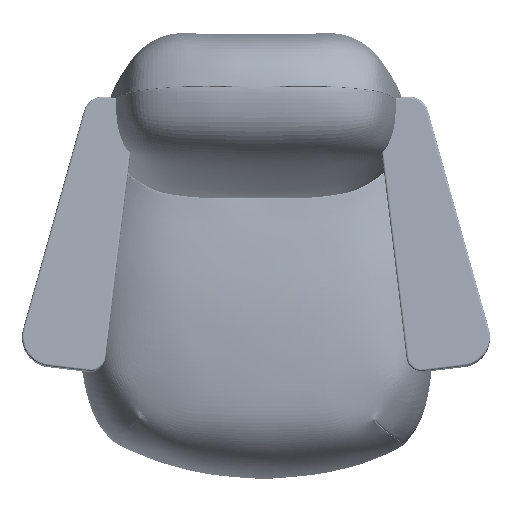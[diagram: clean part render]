
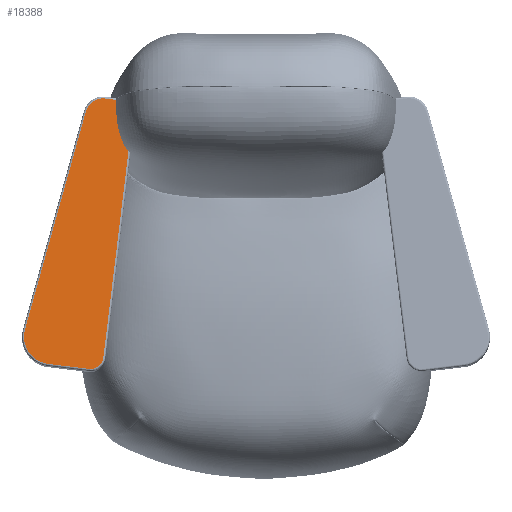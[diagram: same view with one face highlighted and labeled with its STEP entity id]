
A CAD part, top view. The second image highlights one B-rep face of the part: STEP entity #18388.
In plain terms, the highlighted planar face has unit normal (0.004, 0.085, 0.996).
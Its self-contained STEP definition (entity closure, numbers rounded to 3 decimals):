
#76=(
BOUNDED_CURVE()
B_SPLINE_CURVE(1,(#894220,#894221),.UNSPECIFIED.,.F.,.F.)
B_SPLINE_CURVE_WITH_KNOTS((2,2),(0.,83.797),
 .UNSPECIFIED.)
CURVE()
GEOMETRIC_REPRESENTATION_ITEM()
RATIONAL_B_SPLINE_CURVE((1.,1.))
REPRESENTATION_ITEM('')
);
#82=(
BOUNDED_CURVE()
B_SPLINE_CURVE(2,(#894238,#894239,#894240,#894241,#894242),
 .UNSPECIFIED.,.F.,.F.)
B_SPLINE_CURVE_WITH_KNOTS((3,2,3),(0.,48.203,
96.407),.UNSPECIFIED.)
CURVE()
GEOMETRIC_REPRESENTATION_ITEM()
RATIONAL_B_SPLINE_CURVE((1.,0.909,1.,0.909,1.))
REPRESENTATION_ITEM('')
);
#85=(
BOUNDED_CURVE()
B_SPLINE_CURVE(1,(#894249,#894250),.UNSPECIFIED.,.F.,.F.)
B_SPLINE_CURVE_WITH_KNOTS((2,2),(0.,462.239),
 .UNSPECIFIED.)
CURVE()
GEOMETRIC_REPRESENTATION_ITEM()
RATIONAL_B_SPLINE_CURVE((1.,1.))
REPRESENTATION_ITEM('')
);
#90=(
BOUNDED_CURVE()
B_SPLINE_CURVE(2,(#894262,#894263,#894264),.UNSPECIFIED.,.F.,.F.)
B_SPLINE_CURVE_WITH_KNOTS((3,3),(0.,51.121),
 .UNSPECIFIED.)
CURVE()
GEOMETRIC_REPRESENTATION_ITEM()
RATIONAL_B_SPLINE_CURVE((1.,0.758,1.))
REPRESENTATION_ITEM('')
);
#94=(
BOUNDED_CURVE()
B_SPLINE_CURVE(1,(#894274,#894275),.UNSPECIFIED.,.F.,.F.)
B_SPLINE_CURVE_WITH_KNOTS((2,2),(0.,526.),
 .UNSPECIFIED.)
CURVE()
GEOMETRIC_REPRESENTATION_ITEM()
RATIONAL_B_SPLINE_CURVE((1.,1.))
REPRESENTATION_ITEM('')
);
#99=(
BOUNDED_CURVE()
B_SPLINE_CURVE(2,(#894287,#894288,#894289),.UNSPECIFIED.,.F.,.F.)
B_SPLINE_CURVE_WITH_KNOTS((3,3),(0.,40.84),
 .UNSPECIFIED.)
CURVE()
GEOMETRIC_REPRESENTATION_ITEM()
RATIONAL_B_SPLINE_CURVE((1.,0.707,1.))
REPRESENTATION_ITEM('')
);
#18388=ADVANCED_FACE('',(#73790),#664883,.T.);
#73790=FACE_OUTER_BOUND('',#129192,.T.);
#129192=EDGE_LOOP('',(#239282,#239283,#239284,#239285,#239286,#239287,#239288));
#239282=ORIENTED_EDGE('',*,*,#424000,.T.);
#239283=ORIENTED_EDGE('',*,*,#423995,.T.);
#239284=ORIENTED_EDGE('',*,*,#423958,.T.);
#239285=ORIENTED_EDGE('',*,*,#423991,.F.);
#239286=ORIENTED_EDGE('',*,*,#423986,.F.);
#239287=ORIENTED_EDGE('',*,*,#423983,.F.);
#239288=ORIENTED_EDGE('',*,*,#423977,.T.);
#423958=EDGE_CURVE('',#627213,#627214,#534724,.T.);
#423977=EDGE_CURVE('',#627217,#627211,#76,.T.);
#423983=EDGE_CURVE('',#627217,#627216,#82,.T.);
#423986=EDGE_CURVE('',#627216,#627215,#85,.T.);
#423991=EDGE_CURVE('',#627215,#627214,#90,.T.);
#423995=EDGE_CURVE('',#627212,#627213,#94,.T.);
#424000=EDGE_CURVE('',#627211,#627212,#99,.T.);
#534724=B_SPLINE_CURVE_WITH_KNOTS('',1,(#894173,#894174),.UNSPECIFIED.,
 .F.,.F.,(2,2),(4.,64.15),.UNSPECIFIED.);
#627211=VERTEX_POINT('',#894135);
#627212=VERTEX_POINT('',#894136);
#627213=VERTEX_POINT('',#894137);
#627214=VERTEX_POINT('',#894138);
#627215=VERTEX_POINT('',#894139);
#627216=VERTEX_POINT('',#894140);
#627217=VERTEX_POINT('',#894141);
#664883=PLANE('',#720329);
#720329=AXIS2_PLACEMENT_3D('',#894015,#726229,$);
#726229=DIRECTION('',(0.004,0.085,0.996));
#894015=CARTESIAN_POINT('',(104.988,321.171,58.649));
#894135=CARTESIAN_POINT('',(102.058,321.927,58.597));
#894136=CARTESIAN_POINT('',(104.952,324.187,58.393));
#894137=CARTESIAN_POINT('',(111.277,376.215,53.942));
#894138=CARTESIAN_POINT('',(105.306,376.938,53.906));
#894139=CARTESIAN_POINT('',(101.405,374.34,54.144));
#894140=CARTESIAN_POINT('',(89.018,329.971,57.969));
#894141=CARTESIAN_POINT('',(93.739,322.934,58.547));
#894173=CARTESIAN_POINT('',(111.277,376.215,53.942));
#894174=CARTESIAN_POINT('',(105.306,376.938,53.906));
#894220=CARTESIAN_POINT('',(93.739,322.934,58.547));
#894221=CARTESIAN_POINT('',(102.058,321.927,58.597));
#894238=CARTESIAN_POINT('',(93.739,322.934,58.547));
#894239=CARTESIAN_POINT('',(91.187,323.243,58.532));
#894240=CARTESIAN_POINT('',(89.758,325.373,58.357));
#894241=CARTESIAN_POINT('',(88.329,327.503,58.182));
#894242=CARTESIAN_POINT('',(89.018,329.971,57.969));
#894249=CARTESIAN_POINT('',(89.018,329.971,57.969));
#894250=CARTESIAN_POINT('',(101.405,374.34,54.144));
#894262=CARTESIAN_POINT('',(101.405,374.34,54.144));
#894263=CARTESIAN_POINT('',(102.234,377.31,53.888));
#894264=CARTESIAN_POINT('',(105.306,376.938,53.906));
#894274=CARTESIAN_POINT('',(104.952,324.187,58.393));
#894275=CARTESIAN_POINT('',(111.277,376.215,53.942));
#894287=CARTESIAN_POINT('',(102.058,321.927,58.597));
#894288=CARTESIAN_POINT('',(104.639,321.615,58.613));
#894289=CARTESIAN_POINT('',(104.952,324.187,58.393));
